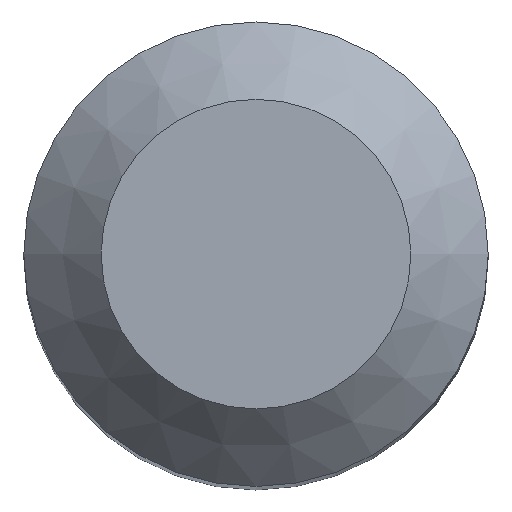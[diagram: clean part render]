
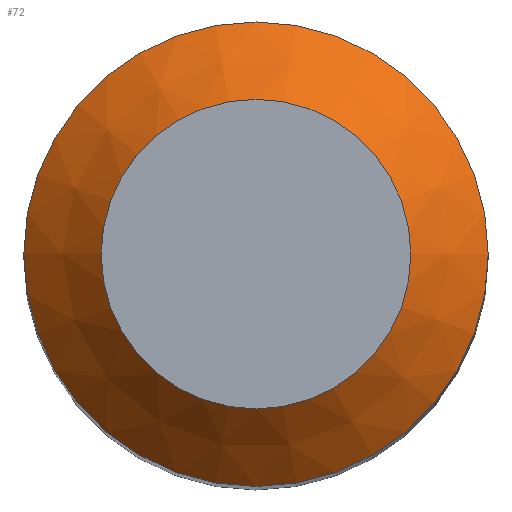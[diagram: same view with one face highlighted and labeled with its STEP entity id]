
A CAD part, top view. The second image highlights one B-rep face of the part: STEP entity #72.
In plain terms, the highlighted conical face has half-angle 45 degrees and reference radius 1.5 mm.
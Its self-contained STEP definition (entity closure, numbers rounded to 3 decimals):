
#20=FACE_OUTER_BOUND('',#25,.T.);
#25=EDGE_LOOP('',(#61,#62,#63,#64,#65));
#30=LINE('',#148,#33);
#33=VECTOR('',#126,1.5);
#36=CIRCLE('',#102,1.5);
#37=CIRCLE('',#103,1.5);
#38=CIRCLE('',#105,1.);
#41=VERTEX_POINT('',#141);
#42=VERTEX_POINT('',#142);
#43=VERTEX_POINT('',#147);
#47=EDGE_CURVE('',#41,#42,#36,.T.);
#48=EDGE_CURVE('',#42,#41,#37,.T.);
#50=EDGE_CURVE('',#41,#43,#30,.T.);
#51=EDGE_CURVE('',#43,#43,#38,.T.);
#61=ORIENTED_EDGE('',*,*,#47,.T.);
#62=ORIENTED_EDGE('',*,*,#48,.T.);
#63=ORIENTED_EDGE('',*,*,#50,.T.);
#64=ORIENTED_EDGE('',*,*,#51,.F.);
#65=ORIENTED_EDGE('',*,*,#50,.F.);
#69=CONICAL_SURFACE('',#104,1.5,0.785);
#72=ADVANCED_FACE('',(#20),#69,.T.);
#102=AXIS2_PLACEMENT_3D('',#143,#119,#120);
#103=AXIS2_PLACEMENT_3D('',#144,#121,#122);
#104=AXIS2_PLACEMENT_3D('',#146,#124,#125);
#105=AXIS2_PLACEMENT_3D('',#149,#127,#128);
#119=DIRECTION('center_axis',(0.,0.,1.));
#120=DIRECTION('ref_axis',(1.,0.,0.));
#121=DIRECTION('center_axis',(0.,0.,1.));
#122=DIRECTION('ref_axis',(1.,0.,0.));
#124=DIRECTION('center_axis',(0.,0.,-1.));
#125=DIRECTION('ref_axis',(-1.,0.,0.));
#126=DIRECTION('',(-0.707,0.,0.707));
#127=DIRECTION('center_axis',(0.,0.,1.));
#128=DIRECTION('ref_axis',(1.,0.,0.));
#141=CARTESIAN_POINT('',(1.5,0.,-0.5));
#142=CARTESIAN_POINT('',(-1.5,0.,-0.5));
#143=CARTESIAN_POINT('Origin',(0.,0.,-0.5));
#144=CARTESIAN_POINT('Origin',(0.,0.,-0.5));
#146=CARTESIAN_POINT('Origin',(0.,0.,-0.5));
#147=CARTESIAN_POINT('',(1.,0.,0.));
#148=CARTESIAN_POINT('',(1.5,0.,-0.5));
#149=CARTESIAN_POINT('Origin',(0.,0.,0.));
